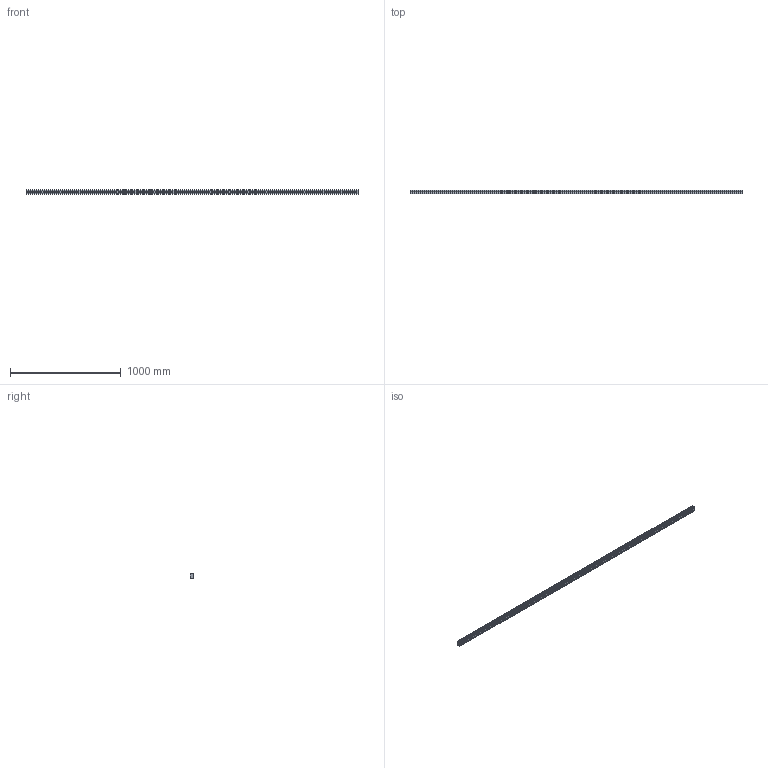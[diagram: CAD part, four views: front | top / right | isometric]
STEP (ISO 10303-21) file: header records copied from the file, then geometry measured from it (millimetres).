
FILE_DESCRIPTION(/* description */ ('STEP AP214'),/* implementation_level */ '2;1');
FILE_NAME(/* name */ 'SHS45-3000L(GK) RAIL(30)',/* time_stamp */ '2023-06-01T08:27:49+02:00',/* author */ ('License CC BY-ND 4.0'),/* organization */ ('CADENAS'),/* preprocessor_version */ 'ST-DEVELOPER v19.3',/* originating_system */ 'PARTsolutions',/* authorisation */ ' ');
FILE_SCHEMA (('AUTOMOTIVE_DESIGN {1 0 10303 214 3 1 1}'));
Length unit declared in the file: millimetre
Products named in the file (1): SHS45-3000L(GK) RAIL(30)
Bounding box: 3000 x 32 x 45 mm (x, y, z)
Volume: 3743300.7 mm3; surface area: 510673.5 mm2
Topology: 1 solids, 1 shells, 158 faces, 381 edges, 225 vertices
Faces by surface type: plane 82, cylinder 76
Full cylindrical faces by diameter (mm): 14 x29, 20 x29
Entity records: 4426 total; most frequent: DIRECTION 822, CARTESIAN_POINT 707, ORIENTED_EDGE 646, AXIS2_PLACEMENT_3D 340, EDGE_CURVE 323, EDGE_LOOP 274, FACE_BOUND 274, VERTEX_POINT 225
